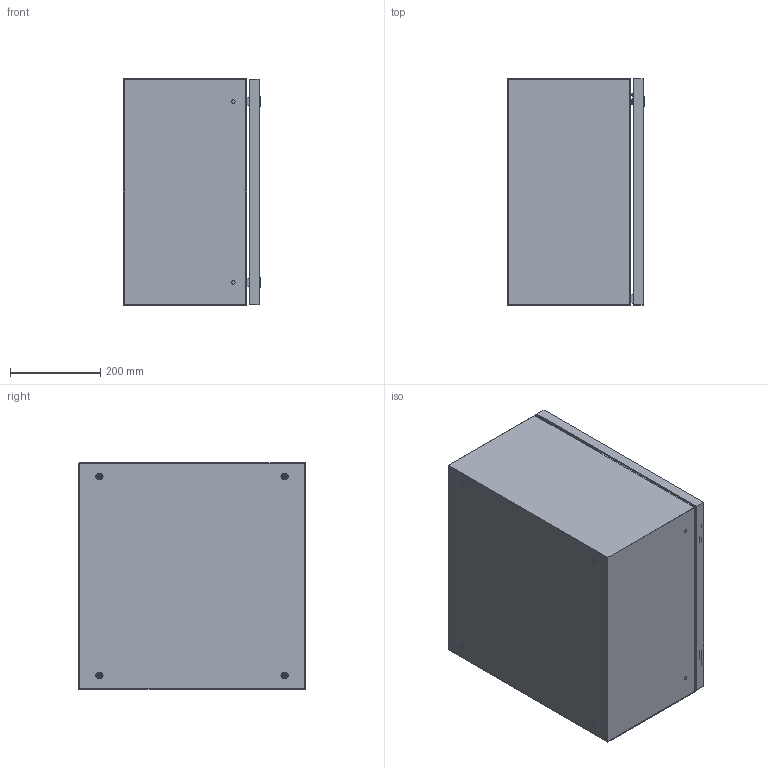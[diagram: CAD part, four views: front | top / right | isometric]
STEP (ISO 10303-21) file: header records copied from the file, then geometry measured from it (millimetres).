
FILE_DESCRIPTION(/* description */ ('Unknown'),/* implementation_level */ '2;1');
FILE_NAME(/* name */ 'CCA05005030',/* time_stamp */ '2024-07-29T13:36:15+02:00',/* author */ ('Unknown'),/* organization */ ('Unknown'),/* preprocessor_version */ 'ST-DEVELOPER v19.4',/* originating_system */ 'Solid Edge',/* authorisation */ 'Unknown');
FILE_SCHEMA (('AUTOMOTIVE_DESIGN {1 0 10303 214 3 1 1}'));
Length unit declared in the file: millimetre
Products named in the file (16): CCA05005030; C000X002.89_oa_0; C0000002.41; C0000000.04; C0000000.05; AE00316.01; AE00601.01; AE00891.02; C0000000.01; AE00417.01; C000X000.31_oa_1; C000X000.32_oa_2; C0000000.36; C0000000.02; AE00198.02; AE00989.09
Assembly tree (35 placements, depth 4):
  CCA05005030
    C000X002.89_oa_0
      C0000002.41
      C0000000.04  x4
      C0000000.05  x4
      AE00316.01  x2
      AE00601.01  x2
      AE00891.02  x2
      C0000000.01  x2
      AE00417.01  x4
    C000X000.31_oa_1
      C000X000.32_oa_2
        C0000000.36
      C0000000.02  x2
      AE00198.02  x2
      AE00989.09  x2
      AE00417.01  x2
    AE00198.02  x2
Bounding box: 305.02 x 500.11 x 500 mm (x, y, z)
Volume: 1923704.9 mm3; surface area: 2289489.2 mm2
Topology: 34 solids, 34 shells, 668 faces, 1627 edges, 1058 vertices
Faces by surface type: plane 436, cylinder 162, cone 36, torus 34
Full cylindrical faces by diameter (mm): 4 x2, 4.917 x6, 4.918 x2, 5.4 x2, 6 x14, 6.4 x2, 7.5 x6, 8 x4, 8.376 x8, 10 x6, 10.25 x4, 10.5 x4, 11 x2, 13.6 x2, 14 x4, 15 x4, 16 x4, 16.3 x2, 19.5 x2, 28 x2
Entity records: 11447 total; most frequent: CARTESIAN_POINT 1762, DIRECTION 1683, ORIENTED_EDGE 1554, EDGE_CURVE 777, AXIS2_PLACEMENT_3D 562, LINE 559, VECTOR 559, VERTEX_POINT 532
